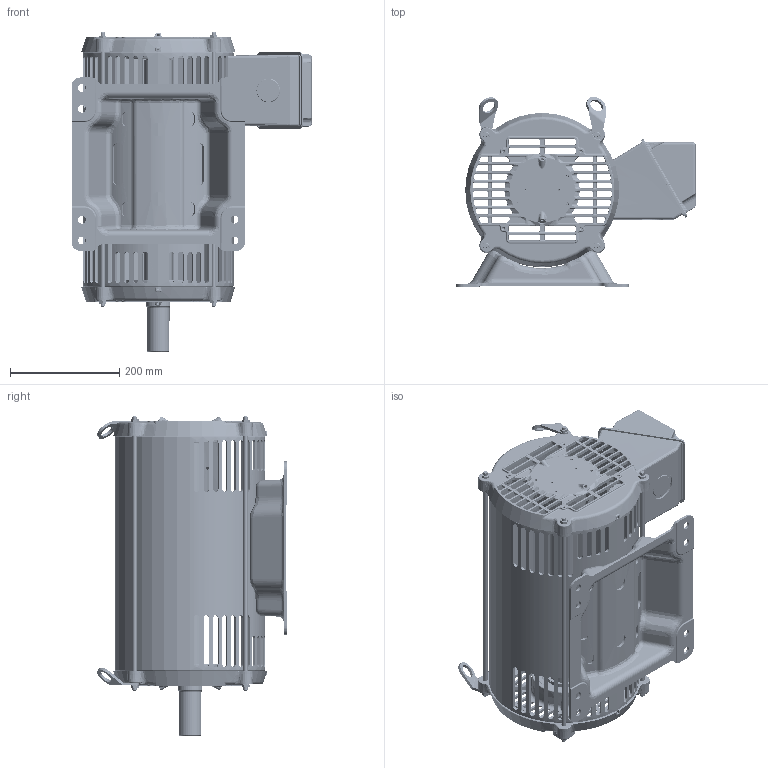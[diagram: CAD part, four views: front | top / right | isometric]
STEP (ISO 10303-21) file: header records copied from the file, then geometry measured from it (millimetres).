
FILE_DESCRIPTION((''),'2;1');
FILE_NAME('A280_ODP_ASM_2POLE_ASM','2021-09-13T14:53:19',('EMD2341'),('Nidec Motor Corporation'),'CREO PARAMETRIC BY PTC INC, 2020454','CREO PARAMETRIC BY PTC INC, 2020454','');
FILE_SCHEMA(('CONFIG_CONTROL_DESIGN'));
Length unit declared in the file: inch
Products named in the file (16): 2084116_AF0; 2028413-BKT_AF3; 2033996-005_AF2; 2028414_ASM; 2035295-BKT_AF1; 2033996-005_AF4; 2028415_ASM; 2083266; 0172877; 0929949-STU; 2084100; 0369733; 0041590; 0364282; 2103785; A280_ODP_ASM_2POLE_ASM
Assembly tree (26 placements, depth 3):
  A280_ODP_ASM_2POLE_ASM
    2084116_AF0
    2028414_ASM
      2028413-BKT_AF3
      2033996-005_AF2
    2028415_ASM
      2035295-BKT_AF1
      2033996-005_AF4
    2083266
    0172877
    0929949-STU  x4
    2084100
    0369733  x2
    0041590  x8
    0364282
    2103785
Bounding box: 441.07 x 347.64 x 584.09 mm (x, y, z)
Volume: 4677046.7 mm3; surface area: 1777943.7 mm2
Topology: 26 solids, 26 shells, 5165 faces, 12672 edges, 7546 vertices
Faces by surface type: bspline 1799, cylinder 1392, plane 1019, cone 489, torus 386, sphere 64, extrusion 16
Entity records: 245491 total; most frequent: CARTESIAN_POINT 139502, ORIENTED_EDGE 24680, DIRECTION 18431, EDGE_CURVE 12340, VERTEX_POINT 7358, AXIS2_PLACEMENT_3D 7209, EDGE_LOOP 5384, FACE_OUTER_BOUND 5025
